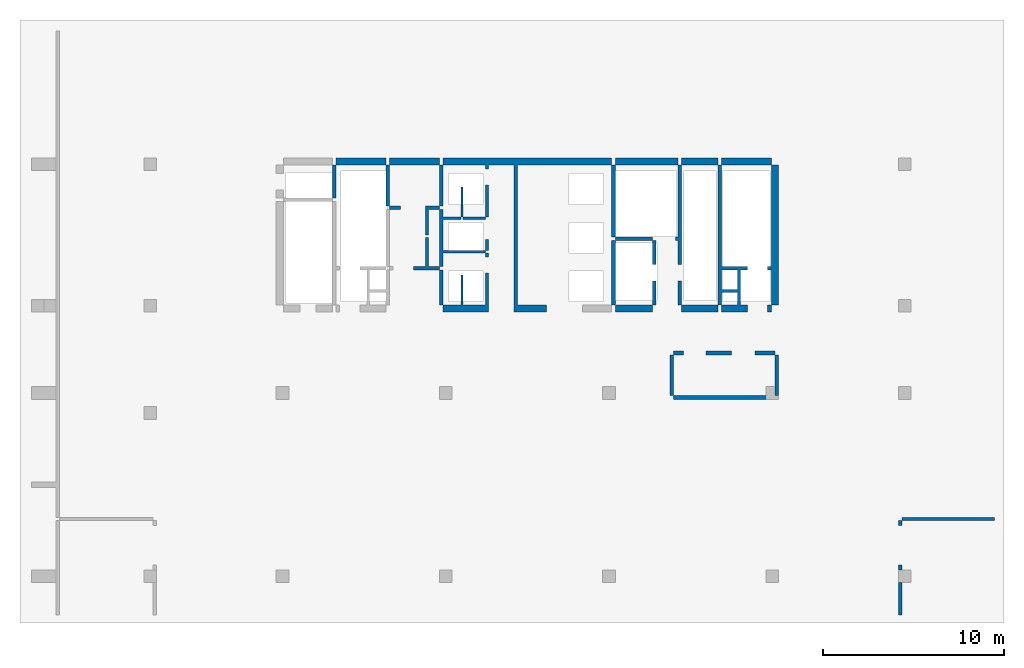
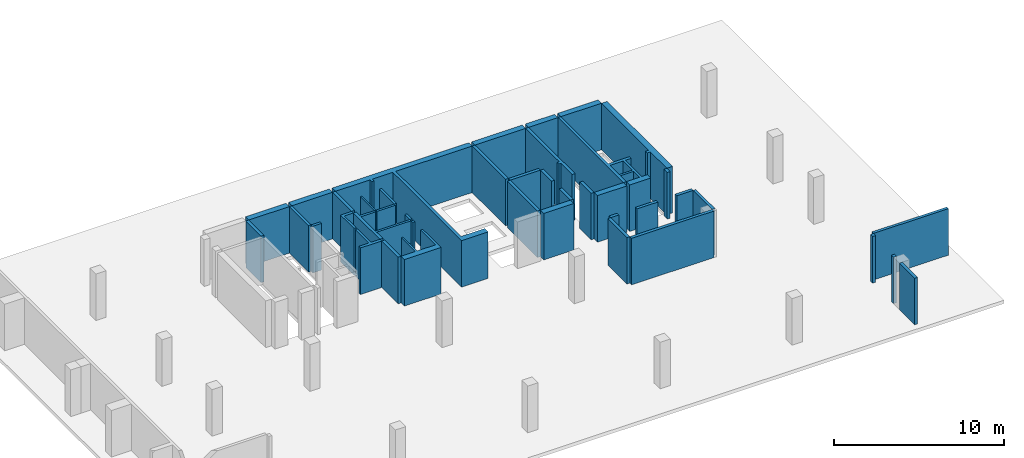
# One storey, part 2 of 2: 42 walls.
"""IFC4 building model written with IfcOpenShell, lengths in millimetres."""

from ifc_helpers import new_model, si_unit, frame, origin, place, context, project, spatial, triangles, element, save


model = new_model("IFC4")

# Units and contexts
model_context = context("Model", 3, precision=0.001, world=origin())
ifc_project = project(units=[si_unit("LENGTHUNIT", "METRE", prefix="MILLI"), si_unit("AREAUNIT", "SQUARE_METRE"), si_unit("VOLUMEUNIT", "CUBIC_METRE")], contexts=[model_context])

# Site, building, storey
site_placement = place(None, origin())
site = spatial("IfcSite", under=ifc_project, at=site_placement, Name="Site", CompositionType="ELEMENT")
building_placement = place(site_placement, origin())
building = spatial("IfcBuilding", under=site, at=building_placement, Name="INNOCEAN", CompositionType="ELEMENT")
storey_placement = place(building_placement, frame((0.0, 0.0, -12600.0)))
storey = spatial("IfcBuildingStorey", under=building, at=storey_placement, Name="B3", CompositionType="ELEMENT", Elevation=-12600.0)

# Walls
wall_1_placement = place(storey_placement, origin())
element("IfcWall", 1, at=wall_1_placement, inside=storey, Name="B3_Walls_B3_015", context=model_context, shape_type="Tessellation", body=[
    triangles([(16429.3, 23222.2, 0.0), (16429.3, 25025.8, 0.0), (16429.3, 25025.8, 3350.0), (16429.3, 23222.2, 3350.0), (16226.2, 23222.2, 0.0), (16226.2, 23222.2, 3350.0), (16226.2, 25025.8, 0.0), (16226.2, 25025.8, 3350.0)], [[1, 2, 3], [1, 3, 4], [5, 1, 4], [5, 4, 6], [7, 5, 6], [7, 6, 8], [2, 7, 8], [2, 8, 3], [7, 2, 1], [7, 1, 5], [3, 8, 4], [4, 8, 6]], closed=True),
])
wall_2_placement = place(storey_placement, origin())
element("IfcWall", 2, at=wall_2_placement, inside=storey, Name="B3_Walls_B3_018", context=model_context, shape_type="Tessellation", body=[
    triangles([(19183.7, 25419.5, 0.0), (16429.3, 25419.5, 0.0), (16429.3, 25419.5, 3350.0), (19183.7, 25419.5, 3350.0), (19183.7, 25025.8, 0.0), (19183.7, 25025.8, 3350.0), (16429.3, 25025.8, 0.0), (16429.3, 25025.8, 3350.0)], [[1, 2, 3], [1, 3, 4], [5, 1, 4], [5, 4, 6], [7, 5, 6], [7, 6, 8], [2, 7, 8], [2, 8, 3], [2, 1, 5], [2, 5, 7], [4, 3, 6], [6, 3, 8]], closed=True),
])
wall_3_placement = place(storey_placement, origin())
element("IfcWall", 3, at=wall_3_placement, inside=storey, Name="B3_Walls_B3_019", context=model_context, shape_type="Tessellation", body=[
    triangles([(23423.2, 18965.0, 0.0), (23423.2, 18967.3, 0.0), (23423.2, 18967.3, 3350.0), (23423.2, 18965.0, 3350.0), (23425.0, 18965.0, 0.0), (23425.0, 18965.0, 3350.0), (23425.0, 17316.1, 3350.0), (23425.0, 17316.1, 0.0), (24679.9, 17316.1, 0.0), (24679.9, 17316.1, 3350.0), (24679.9, 19068.9, 0.0), (24679.9, 19068.9, 3350.0), (24680.0, 19068.9, 3350.0), (24680.0, 19068.9, 0.0), (24680.0, 19070.0, 0.0), (24680.0, 19070.0, 3350.0), (24830.0, 19070.0, 0.0), (24830.0, 19070.0, 3350.0), (24830.0, 19068.9, 0.0), (24830.0, 19068.9, 3350.0), (24832.2, 19068.9, 3350.0), (24832.2, 19068.9, 0.0), (24832.2, 17316.1, 0.0), (24832.2, 17316.1, 3350.0), (24832.2, 16922.4, 0.0), (24832.2, 16922.4, 3350.0), (22331.6, 16922.4, 0.0), (22331.6, 16922.4, 3350.0), (22331.6, 17316.1, 0.0), (22331.6, 17316.1, 3350.0), (23320.0, 17316.1, 0.0), (23320.0, 17316.1, 3350.0), (23320.0, 18965.0, 3350.0), (23320.0, 18965.0, 0.0), (23321.7, 18965.0, 0.0), (23321.7, 18965.0, 3350.0), (23321.7, 18967.3, 0.0), (23321.7, 18967.3, 3350.0)], [[1, 2, 3], [1, 3, 4], [5, 1, 4], [5, 4, 6], [5, 6, 7], [8, 5, 7], [9, 8, 7], [9, 7, 10], [11, 9, 10], [11, 10, 12], [11, 12, 13], [14, 11, 13], [15, 14, 13], [15, 13, 16], [17, 15, 16], [17, 16, 18], [19, 17, 18], [19, 18, 20], [19, 20, 21], [22, 19, 21], [23, 22, 21], [23, 21, 24], [25, 23, 24], [25, 24, 26], [27, 25, 26], [27, 26, 28], [29, 27, 28], [29, 28, 30], [31, 29, 30], [31, 30, 32], [31, 32, 33], [34, 31, 33], [35, 34, 33], [35, 33, 36], [37, 35, 36], [37, 36, 38], [2, 37, 38], [2, 38, 3], [9, 23, 25], [8, 9, 25], [19, 22, 23], [19, 23, 9], [14, 17, 19], [14, 19, 9], [11, 14, 9], [15, 17, 14], [27, 8, 25], [27, 31, 8], [29, 31, 27], [1, 5, 8], [1, 8, 31], [35, 2, 1], [35, 1, 31], [34, 35, 31], [37, 2, 35], [24, 10, 26], [10, 7, 26], [21, 20, 24], [24, 20, 10], [18, 13, 20], [20, 13, 10], [13, 12, 10], [18, 16, 13], [7, 28, 26], [32, 28, 7], [32, 30, 28], [6, 4, 7], [7, 4, 32], [3, 36, 4], [4, 36, 32], [36, 33, 32], [3, 38, 36]], closed=True),
])
wall_4_placement = place(storey_placement, origin())
element("IfcWall", 4, at=wall_4_placement, inside=storey, Name="B3_Walls_B3_020", context=model_context, shape_type="Tessellation", body=[
    triangles([(22331.6, 19246.7, 0.0), (22331.6, 19246.7, 3350.0), (22331.6, 17316.1, 3350.0), (22331.6, 17316.1, 0.0), (22128.5, 17316.1, 0.0), (22128.5, 17316.1, 3350.0), (22128.5, 19246.7, 3350.0), (22128.5, 19246.7, 0.0)], [[1, 2, 3], [4, 1, 3], [5, 4, 3], [5, 3, 6], [5, 6, 7], [8, 5, 7], [1, 8, 7], [1, 7, 2], [8, 1, 4], [8, 4, 5], [2, 7, 3], [3, 7, 6]], closed=True),
])
wall_5_placement = place(storey_placement, origin())
element("IfcWall", 5, at=wall_5_placement, inside=storey, Name="B3_Walls_B3_022", context=model_context, shape_type="Tessellation", body=[
    triangles([(21366.9, 21024.9, 0.0), (21366.9, 19449.9, 0.0), (21366.9, 19449.9, 3350.0), (21366.9, 21024.9, 3350.0), (21519.3, 21024.9, 3350.0), (21519.3, 21024.9, 0.0), (21519.3, 19449.9, 0.0), (21519.3, 19449.9, 3350.0), (22128.5, 19449.9, 0.0), (22128.5, 19449.9, 3350.0), (22128.5, 19246.7, 0.0), (22128.5, 19246.7, 3350.0), (20694.2, 19246.7, 0.0), (20694.2, 19246.7, 3350.0), (20694.2, 19449.9, 0.0), (20694.2, 19449.9, 3350.0)], [[1, 2, 3], [1, 3, 4], [1, 4, 5], [6, 1, 5], [7, 6, 5], [7, 5, 8], [9, 7, 8], [9, 8, 10], [11, 9, 10], [11, 10, 12], [13, 11, 12], [13, 12, 14], [15, 13, 14], [15, 14, 16], [2, 15, 16], [2, 16, 3], [7, 9, 11], [2, 7, 11], [13, 2, 11], [15, 2, 13], [1, 6, 7], [1, 7, 2], [10, 8, 12], [8, 3, 12], [3, 14, 12], [3, 16, 14], [5, 4, 8], [8, 4, 3]], closed=True),
])
wall_6_placement = place(storey_placement, origin())
element("IfcWall", 6, at=wall_6_placement, inside=storey, Name="B3_Walls_B3_023", context=model_context, shape_type="Tessellation", body=[
    triangles([(24679.9, 19970.7, 0.0), (24832.2, 19970.7, 0.0), (24832.2, 19970.7, 3350.0), (24679.9, 19970.7, 3350.0), (24679.9, 20173.9, 0.0), (24679.9, 20173.9, 3350.0), (24832.2, 20173.9, 0.0), (24832.2, 20173.9, 3350.0)], [[1, 2, 3], [1, 3, 4], [5, 1, 4], [5, 4, 6], [7, 5, 6], [7, 6, 8], [2, 7, 8], [2, 8, 3], [5, 2, 1], [5, 7, 2], [3, 6, 4], [8, 6, 3]], closed=True),
])
wall_7_placement = place(storey_placement, origin())
element("IfcWall", 7, at=wall_7_placement, inside=storey, Name="B3_Walls_B3_024", context=model_context, shape_type="Tessellation", body=[
    triangles([(22128.5, 22574.4, 0.0), (22128.5, 19449.9, 0.0), (22128.5, 19449.9, 3350.0), (22128.5, 22574.4, 3350.0), (22331.6, 22574.4, 0.0), (22331.6, 22574.4, 3350.0), (22331.6, 22168.0, 0.0), (22331.6, 22168.0, 3350.0), (23321.7, 22168.0, 3350.0), (23321.7, 22168.0, 0.0), (23321.7, 22015.6, 0.0), (23321.7, 22015.6, 3350.0), (22331.6, 22015.6, 3350.0), (22331.6, 22015.6, 0.0), (22331.6, 20326.3, 0.0), (22331.6, 20326.3, 3350.0), (24679.9, 20326.3, 0.0), (24679.9, 20326.3, 3350.0), (24679.9, 20173.9, 3350.0), (24679.9, 20173.9, 0.0), (22331.6, 20173.9, 0.0), (22331.6, 20173.9, 3350.0), (22331.6, 19449.9, 3350.0), (22331.6, 19449.9, 0.0)], [[1, 2, 3], [1, 3, 4], [5, 1, 4], [5, 4, 6], [7, 5, 6], [7, 6, 8], [7, 8, 9], [10, 7, 9], [11, 10, 9], [11, 9, 12], [11, 12, 13], [14, 11, 13], [15, 14, 13], [15, 13, 16], [17, 15, 16], [17, 16, 18], [17, 18, 19], [20, 17, 19], [21, 20, 19], [21, 19, 22], [21, 22, 23], [24, 21, 23], [2, 24, 23], [2, 23, 3], [21, 24, 2], [15, 17, 20], [15, 20, 21], [15, 21, 2], [14, 10, 11], [7, 10, 14], [1, 5, 7], [1, 14, 15], [1, 7, 14], [2, 1, 15], [23, 22, 3], [18, 16, 19], [19, 16, 22], [22, 16, 3], [9, 13, 12], [9, 8, 13], [6, 4, 8], [13, 4, 16], [8, 4, 13], [4, 3, 16]], closed=True),
])
wall_8_placement = place(storey_placement, origin())
element("IfcWall", 8, at=wall_8_placement, inside=storey, Name="B3_Walls_B3_026", context=model_context, shape_type="Tessellation", body=[
    triangles([(22128.5, 22765.0, 0.0), (21366.9, 22765.0, 0.0), (21366.9, 22765.0, 3350.0), (22128.5, 22765.0, 3350.0), (22128.5, 22574.4, 0.0), (22128.5, 22574.4, 3350.0), (21519.3, 22574.4, 0.0), (21519.3, 22574.4, 3350.0), (21519.3, 21177.3, 0.0), (21519.3, 21177.3, 3350.0), (21366.9, 21177.3, 3350.0), (21366.9, 21177.3, 0.0), (21366.9, 22574.4, 0.0), (21366.9, 22574.4, 3350.0)], [[1, 2, 3], [1, 3, 4], [5, 1, 4], [5, 4, 6], [7, 5, 6], [7, 6, 8], [9, 7, 8], [9, 8, 10], [9, 10, 11], [12, 9, 11], [13, 12, 11], [13, 11, 14], [2, 13, 14], [2, 14, 3], [7, 1, 5], [13, 7, 9], [13, 9, 12], [2, 1, 7], [2, 7, 13], [4, 8, 6], [8, 14, 10], [10, 14, 11], [4, 3, 8], [8, 3, 14]], closed=True),
])
wall_9_placement = place(storey_placement, origin())
element("IfcWall", 9, at=wall_9_placement, inside=storey, Name="B3_Walls_B3_027", context=model_context, shape_type="Tessellation", body=[
    triangles([(23423.2, 22168.0, 0.0), (23423.2, 22168.0, 3350.0), (24679.9, 22168.0, 3350.0), (24679.9, 22168.0, 0.0), (24679.9, 22015.6, 0.0), (24679.9, 22015.6, 3350.0), (23423.2, 22015.6, 3350.0), (23423.2, 22015.6, 0.0)], [[1, 2, 3], [4, 1, 3], [5, 4, 3], [5, 3, 6], [5, 6, 7], [8, 5, 7], [1, 8, 7], [1, 7, 2], [1, 4, 5], [1, 5, 8], [3, 2, 6], [6, 2, 7]], closed=True),
])
wall_10_placement = place(storey_placement, origin())
element("IfcWall", 10, at=wall_10_placement, inside=storey, Name="B3_Walls_B3_028", context=model_context, shape_type="Tessellation", body=[
    triangles([(19970.7, 22574.4, 0.0), (19970.7, 22765.0, 0.0), (19970.7, 22765.0, 3350.0), (19970.7, 22574.4, 3350.0), (19374.1, 22574.4, 0.0), (19374.1, 22574.4, 3350.0), (19374.1, 22765.0, 0.0), (19374.1, 22765.0, 3350.0)], [[1, 2, 3], [1, 3, 4], [5, 1, 4], [5, 4, 6], [7, 5, 6], [7, 6, 8], [2, 7, 8], [2, 8, 3], [7, 2, 1], [7, 1, 5], [3, 8, 4], [4, 8, 6]], closed=True),
])
wall_11_placement = place(storey_placement, origin())
element("IfcWall", 11, at=wall_11_placement, inside=storey, Name="B3_Walls_B3_029", context=model_context, shape_type="Tessellation", body=[
    triangles([(23423.2, 23819.2, 0.0), (23423.2, 23819.2, 3350.0), (23423.2, 22168.0, 3350.0), (23423.2, 22168.0, 0.0), (23321.7, 22168.0, 0.0), (23321.7, 22168.0, 3350.0), (23321.7, 23819.2, 3350.0), (23321.7, 23819.2, 0.0)], [[1, 2, 3], [4, 1, 3], [5, 4, 3], [5, 3, 6], [5, 6, 7], [8, 5, 7], [1, 8, 7], [1, 7, 2], [8, 1, 4], [8, 4, 5], [2, 7, 3], [3, 7, 6]], closed=True),
])
wall_12_placement = place(storey_placement, origin())
element("IfcWall", 12, at=wall_12_placement, inside=storey, Name="B3_Walls_B3_030", context=model_context, shape_type="Tessellation", body=[
    triangles([(19374.1, 22765.0, 0.0), (19374.1, 25025.8, 0.0), (19374.1, 25025.8, 3350.0), (19374.1, 22765.0, 3350.0), (19183.7, 22765.0, 0.0), (19183.7, 22765.0, 3350.0), (19183.7, 25025.8, 0.0), (19183.7, 25025.8, 3350.0)], [[1, 2, 3], [1, 3, 4], [5, 1, 4], [5, 4, 6], [7, 5, 6], [7, 6, 8], [2, 7, 8], [2, 8, 3], [7, 2, 1], [7, 1, 5], [3, 8, 4], [4, 8, 6]], closed=True),
])
wall_13_placement = place(storey_placement, origin())
element("IfcWall", 13, at=wall_13_placement, inside=storey, Name="B3_Walls_B3_031", context=model_context, shape_type="Tessellation", body=[
    triangles([(22331.6, 22765.0, 0.0), (22331.6, 25025.8, 0.0), (22331.6, 25025.8, 3350.0), (22331.6, 22765.0, 3350.0), (22128.5, 22765.0, 0.0), (22128.5, 22765.0, 3350.0), (22128.5, 25025.8, 0.0), (22128.5, 25025.8, 3350.0)], [[1, 2, 3], [1, 3, 4], [5, 1, 4], [5, 4, 6], [7, 5, 6], [7, 6, 8], [2, 7, 8], [2, 8, 3], [7, 2, 1], [7, 1, 5], [3, 8, 4], [4, 8, 6]], closed=True),
])
wall_14_placement = place(storey_placement, origin())
element("IfcWall", 14, at=wall_14_placement, inside=storey, Name="B3_Walls_B3_032", context=model_context, shape_type="Tessellation", body=[
    triangles([(22128.5, 25419.5, 0.0), (19374.1, 25419.5, 0.0), (19374.1, 25419.5, 3350.0), (22128.5, 25419.5, 3350.0), (22128.5, 25025.8, 0.0), (22128.5, 25025.8, 3350.0), (19374.1, 25025.8, 0.0), (19374.1, 25025.8, 3350.0)], [[1, 2, 3], [1, 3, 4], [5, 1, 4], [5, 4, 6], [7, 5, 6], [7, 6, 8], [2, 7, 8], [2, 8, 3], [2, 1, 5], [2, 5, 7], [4, 3, 6], [6, 3, 8]], closed=True),
])
wall_15_placement = place(storey_placement, origin())
element("IfcWall", 15, at=wall_15_placement, inside=storey, Name="B3_Walls_B3_033", context=model_context, shape_type="Tessellation", body=[
    triangles([(35024.8, 14572.6, 0.0), (34821.8, 14572.6, 0.0), (34821.8, 14572.6, 3350.0), (35024.8, 14572.6, 3350.0), (35024.8, 12324.5, 0.0), (35024.8, 12324.5, 3350.0), (34821.8, 12324.5, 0.0), (34821.8, 12324.5, 3350.0)], [[1, 2, 3], [1, 3, 4], [5, 1, 4], [5, 4, 6], [7, 5, 6], [7, 6, 8], [2, 7, 8], [2, 8, 3], [2, 1, 5], [2, 5, 7], [4, 3, 6], [6, 3, 8]], closed=True),
])
wall_16_placement = place(storey_placement, origin())
element("IfcWall", 16, at=wall_16_placement, inside=storey, Name="B3_Walls_B3_034", context=model_context, shape_type="Tessellation", body=[
    triangles([(35024.8, 14572.6, 0.0), (35024.8, 14572.6, 3350.0), (35024.8, 14775.8, 3350.0), (35024.8, 14775.8, 0.0), (35570.7, 14775.8, 0.0), (35570.7, 14775.8, 3350.0), (35570.7, 14572.6, 3350.0), (35570.7, 14572.6, 0.0)], [[1, 2, 3], [4, 1, 3], [5, 4, 3], [5, 3, 6], [5, 6, 7], [8, 5, 7], [1, 8, 7], [1, 7, 2], [4, 5, 8], [4, 8, 1], [6, 3, 7], [7, 3, 2]], closed=True),
])
wall_17_placement = place(storey_placement, origin())
element("IfcWall", 17, at=wall_17_placement, inside=storey, Name="B3_Walls_B3_035", context=model_context, shape_type="Tessellation", body=[
    triangles([(38223.5, 14775.0, 0.0), (38223.5, 14775.8, 0.0), (38223.5, 14775.8, 3350.0), (38223.5, 14775.0, 3350.0), (38225.0, 14775.0, 0.0), (38225.0, 14775.0, 3350.0), (38225.0, 14575.0, 0.0), (38225.0, 14575.0, 3350.0), (38223.5, 14575.0, 0.0), (38223.5, 14575.0, 3350.0), (38223.5, 14572.6, 0.0), (38223.5, 14572.6, 3350.0), (36814.6, 14572.6, 0.0), (36814.6, 14572.6, 3350.0), (36814.6, 14775.8, 3350.0), (36814.6, 14775.8, 0.0)], [[1, 2, 3], [1, 3, 4], [5, 1, 4], [5, 4, 6], [7, 5, 6], [7, 6, 8], [9, 7, 8], [9, 8, 10], [11, 9, 10], [11, 10, 12], [13, 11, 12], [13, 12, 14], [13, 14, 15], [16, 13, 15], [2, 16, 15], [2, 15, 3], [1, 5, 7], [1, 7, 9], [13, 9, 11], [16, 2, 1], [16, 9, 13], [16, 1, 9], [6, 4, 8], [8, 4, 10], [10, 14, 12], [3, 15, 4], [10, 15, 14], [4, 15, 10]], closed=True),
])
wall_18_placement = place(storey_placement, origin())
element("IfcWall", 18, at=wall_18_placement, inside=storey, Name="B3_Walls_B3_036", context=model_context, shape_type="Tessellation", body=[
    triangles([(24832.2, 24822.6, 0.0), (24832.2, 25025.8, 0.0), (24832.2, 25025.8, 3350.0), (24832.2, 24822.6, 3350.0), (24679.9, 24822.6, 0.0), (24679.9, 24822.6, 3350.0), (24679.9, 25025.8, 0.0), (24679.9, 25025.8, 3350.0), (22331.6, 25025.8, 0.0), (22331.6, 25025.8, 3350.0), (22331.6, 25419.5, 0.0), (22331.6, 25419.5, 3350.0), (31623.1, 25419.5, 0.0), (31623.1, 25419.5, 3350.0), (31623.1, 25025.8, 0.0), (31623.1, 25025.8, 3350.0), (26431.5, 25025.8, 3350.0), (26431.5, 25025.8, 0.0), (26431.5, 17316.1, 0.0), (26431.5, 17316.1, 3350.0), (28030.9, 17316.1, 0.0), (28030.9, 17316.1, 3350.0), (28030.9, 16922.4, 0.0), (28030.9, 16922.4, 3350.0), (28030.0, 16922.4, 0.0), (28030.0, 16922.4, 3350.0), (28030.0, 16920.0, 0.0), (28030.0, 16920.0, 3350.0), (26230.0, 16920.0, 0.0), (26230.0, 16920.0, 3350.0), (26230.0, 16922.4, 0.0), (26230.0, 16922.4, 3350.0), (26228.4, 16922.4, 3350.0), (26228.4, 16922.4, 0.0), (26228.4, 17316.1, 0.0), (26228.4, 17316.1, 3350.0), (26228.4, 25025.8, 0.0), (26228.4, 25025.8, 3350.0)], [[1, 2, 3], [1, 3, 4], [5, 1, 4], [5, 4, 6], [7, 5, 6], [7, 6, 8], [9, 7, 8], [9, 8, 10], [11, 9, 10], [11, 10, 12], [13, 11, 12], [13, 12, 14], [15, 13, 14], [15, 14, 16], [17, 15, 16], [18, 15, 17], [19, 18, 17], [19, 17, 20], [21, 19, 20], [21, 20, 22], [23, 21, 22], [23, 22, 24], [25, 23, 24], [25, 24, 26], [27, 25, 26], [27, 26, 28], [29, 27, 28], [29, 28, 30], [31, 29, 30], [31, 30, 32], [31, 32, 33], [34, 31, 33], [35, 34, 33], [35, 33, 36], [37, 35, 36], [37, 36, 38], [2, 37, 38], [2, 38, 3], [21, 23, 25], [19, 25, 27], [19, 27, 29], [19, 29, 31], [19, 21, 25], [35, 31, 34], [35, 19, 31], [18, 13, 15], [37, 18, 19], [37, 19, 35], [2, 1, 5], [7, 2, 5], [11, 7, 9], [11, 13, 18], [11, 18, 37], [11, 37, 2], [11, 2, 7], [24, 22, 26], [26, 20, 28], [28, 20, 30], [30, 20, 32], [22, 20, 26], [32, 36, 33], [20, 36, 32], [14, 17, 16], [17, 38, 20], [20, 38, 36], [4, 3, 6], [3, 8, 6], [8, 12, 10], [14, 12, 17], [17, 12, 38], [38, 12, 3], [3, 12, 8]], closed=True),
])
wall_19_placement = place(storey_placement, origin())
element("IfcWall", 19, at=wall_19_placement, inside=storey, Name="B3_Walls_B3_038", context=model_context, shape_type="Tessellation", body=[
    triangles([(33869.8, 16922.4, 0.0), (33869.8, 17316.1, 0.0), (33869.8, 17316.1, 3350.0), (33869.8, 16922.4, 3350.0), (31826.2, 16922.4, 0.0), (31826.2, 16922.4, 3350.0), (31826.2, 17316.1, 0.0), (31826.2, 17316.1, 3350.0)], [[1, 2, 3], [1, 3, 4], [5, 1, 4], [5, 4, 6], [7, 5, 6], [7, 6, 8], [2, 7, 8], [2, 8, 3], [7, 2, 1], [7, 1, 5], [3, 8, 4], [4, 8, 6]], closed=True),
])
wall_20_placement = place(storey_placement, origin())
element("IfcWall", 20, at=wall_20_placement, inside=storey, Name="B3_Walls_B3_039", context=model_context, shape_type="Tessellation", body=[
    triangles([(37474.6, 16922.4, 0.0), (37474.6, 17316.1, 0.0), (37474.6, 17316.1, 3350.0), (37474.6, 16922.4, 3350.0), (35469.1, 16922.4, 0.0), (35469.1, 16922.4, 3350.0), (35469.1, 17316.1, 0.0), (35469.1, 17316.1, 3350.0)], [[1, 2, 3], [1, 3, 4], [5, 1, 4], [5, 4, 6], [7, 5, 6], [7, 6, 8], [2, 7, 8], [2, 8, 3], [7, 2, 1], [7, 1, 5], [3, 8, 4], [4, 8, 6]], closed=True),
])
wall_21_placement = place(storey_placement, origin())
element("IfcWall", 21, at=wall_21_placement, inside=storey, Name="B3_Walls_B3_040", context=model_context, shape_type="Tessellation", body=[
    triangles([(34072.9, 17316.1, 0.0), (34072.9, 18649.7, 0.0), (34072.9, 18649.7, 3350.0), (34072.9, 17316.1, 3350.0), (33869.8, 17316.1, 0.0), (33869.8, 17316.1, 3350.0), (33869.8, 18649.7, 0.0), (33869.8, 18649.7, 3350.0)], [[1, 2, 3], [1, 3, 4], [5, 1, 4], [5, 4, 6], [7, 5, 6], [7, 6, 8], [2, 7, 8], [2, 8, 3], [7, 2, 1], [7, 1, 5], [3, 8, 4], [4, 8, 6]], closed=True),
])
wall_22_placement = place(storey_placement, origin())
element("IfcWall", 22, at=wall_22_placement, inside=storey, Name="B3_Walls_B3_041", context=model_context, shape_type="Tessellation", body=[
    triangles([(35469.1, 17316.1, 0.0), (35469.1, 18649.7, 0.0), (35469.1, 18649.7, 3350.0), (35469.1, 17316.1, 3350.0), (35266.0, 17316.1, 0.0), (35266.0, 17316.1, 3350.0), (35266.0, 18649.7, 0.0), (35266.0, 18649.7, 3350.0)], [[1, 2, 3], [1, 3, 4], [5, 1, 4], [5, 4, 6], [7, 5, 6], [7, 6, 8], [2, 7, 8], [2, 8, 3], [7, 2, 1], [7, 1, 5], [3, 8, 4], [4, 8, 6]], closed=True),
])
wall_23_placement = place(storey_placement, origin())
element("IfcWall", 23, at=wall_23_placement, inside=storey, Name="B3_Walls_B3_042", context=model_context, shape_type="Tessellation", body=[
    triangles([(31826.2, 17316.1, 3350.0), (31826.2, 20872.5, 0.0), (31826.2, 20872.5, 3350.0), (31826.2, 17316.1, 0.0), (31623.1, 17316.1, 0.0), (31623.1, 17316.1, 3350.0), (31623.1, 20872.5, 3350.0), (31623.1, 20872.5, 0.0)], [[1, 2, 3], [4, 2, 1], [5, 4, 1], [5, 1, 6], [7, 5, 6], [8, 5, 7], [2, 8, 7], [2, 7, 3], [8, 2, 4], [8, 4, 5], [3, 7, 1], [1, 7, 6]], closed=True),
])
wall_24_placement = place(storey_placement, origin())
element("IfcWall", 24, at=wall_24_placement, inside=storey, Name="B3_Walls_B3_043", context=model_context, shape_type="Tessellation", body=[
    triangles([(34072.9, 19551.5, 0.0), (34072.9, 20872.5, 0.0), (34072.9, 20872.5, 3350.0), (34072.9, 19551.5, 3350.0), (33869.8, 19551.5, 0.0), (33869.8, 19551.5, 3350.0), (33869.8, 20872.5, 0.0), (33869.8, 20872.5, 3350.0)], [[1, 2, 3], [1, 3, 4], [5, 1, 4], [5, 4, 6], [7, 5, 6], [7, 6, 8], [2, 7, 8], [2, 8, 3], [7, 2, 1], [7, 1, 5], [3, 8, 4], [4, 8, 6]], closed=True),
])
wall_25_placement = place(storey_placement, origin())
element("IfcWall", 25, at=wall_25_placement, inside=storey, Name="B3_Walls_B3_044", context=model_context, shape_type="Tessellation", body=[
    triangles([(35469.1, 21075.7, 3350.0), (35469.1, 25025.8, 0.0), (35469.1, 25025.8, 3350.0), (35469.1, 21075.7, 0.0), (35469.1, 20872.5, 0.0), (35469.1, 20872.5, 3350.0), (35469.1, 19551.5, 0.0), (35469.1, 19551.5, 3350.0), (35266.0, 19551.5, 0.0), (35266.0, 19551.5, 3350.0), (35266.0, 20872.5, 0.0), (35266.0, 20872.5, 3350.0), (35126.4, 20872.5, 0.0), (35126.4, 20872.5, 3350.0), (35126.4, 21075.7, 0.0), (35126.4, 21075.7, 3350.0), (35266.0, 21075.7, 0.0), (35266.0, 21075.7, 3350.0), (35266.0, 25025.8, 3350.0), (35266.0, 25025.8, 0.0)], [[1, 2, 3], [4, 2, 1], [5, 4, 1], [5, 1, 6], [7, 5, 6], [7, 6, 8], [9, 7, 8], [9, 8, 10], [11, 9, 10], [11, 10, 12], [13, 11, 12], [13, 12, 14], [15, 13, 14], [15, 14, 16], [17, 15, 16], [17, 16, 18], [19, 17, 18], [20, 17, 19], [2, 20, 19], [2, 19, 3], [11, 5, 7], [11, 7, 9], [4, 5, 11], [17, 4, 11], [15, 11, 13], [15, 17, 11], [20, 2, 4], [20, 4, 17], [6, 12, 8], [8, 12, 10], [6, 1, 12], [1, 18, 12], [12, 16, 14], [18, 16, 12], [3, 19, 1], [1, 19, 18]], closed=True),
])
wall_26_placement = place(storey_placement, origin())
element("IfcWall", 26, at=wall_26_placement, inside=storey, Name="B3_Walls_B3_045", context=model_context, shape_type="Tessellation", body=[
    triangles([(24832.2, 20326.3, 0.0), (24832.2, 20923.3, 0.0), (24832.2, 20923.3, 3350.0), (24832.2, 20326.3, 3350.0), (24679.9, 20326.3, 0.0), (24679.9, 20326.3, 3350.0), (24679.9, 20923.3, 0.0), (24679.9, 20923.3, 3350.0)], [[1, 2, 3], [1, 3, 4], [5, 1, 4], [5, 4, 6], [7, 5, 6], [7, 6, 8], [2, 7, 8], [2, 8, 3], [7, 2, 1], [7, 1, 5], [3, 8, 4], [4, 8, 6]], closed=True),
])
wall_27_placement = place(storey_placement, origin())
element("IfcWall", 27, at=wall_27_placement, inside=storey, Name="B3_Walls_B3_046", context=model_context, shape_type="Tessellation", body=[
    triangles([(33869.8, 20872.5, 0.0), (33869.8, 21075.7, 0.0), (33869.8, 21075.7, 3350.0), (33869.8, 20872.5, 3350.0), (31826.2, 20872.5, 0.0), (31826.2, 20872.5, 3350.0), (31826.2, 21075.7, 0.0), (31826.2, 21075.7, 3350.0)], [[1, 2, 3], [1, 3, 4], [5, 1, 4], [5, 4, 6], [7, 5, 6], [7, 6, 8], [2, 7, 8], [2, 8, 3], [7, 2, 1], [7, 1, 5], [3, 8, 4], [4, 8, 6]], closed=True),
])
wall_28_placement = place(storey_placement, origin())
element("IfcWall", 28, at=wall_28_placement, inside=storey, Name="B3_Walls_B3_047", context=model_context, shape_type="Tessellation", body=[
    triangles([(24832.2, 22168.0, 0.0), (24832.2, 23920.8, 0.0), (24832.2, 23920.8, 3350.0), (24832.2, 22168.0, 3350.0), (24679.9, 22168.0, 0.0), (24679.9, 22168.0, 3350.0), (24679.9, 23920.8, 0.0), (24679.9, 23920.8, 3350.0)], [[1, 2, 3], [1, 3, 4], [5, 1, 4], [5, 4, 6], [7, 5, 6], [7, 6, 8], [2, 7, 8], [2, 8, 3], [2, 1, 5], [7, 2, 5], [4, 3, 6], [3, 8, 6]], closed=True),
])
wall_29_placement = place(storey_placement, origin())
element("IfcWall", 29, at=wall_29_placement, inside=storey, Name="B3_Walls_B3_048", context=model_context, shape_type="Tessellation", body=[
    triangles([(31826.2, 21075.7, 3350.0), (31826.2, 25025.8, 0.0), (31826.2, 25025.8, 3350.0), (31826.2, 21075.7, 0.0), (31623.1, 21075.7, 0.0), (31623.1, 21075.7, 3350.0), (31623.1, 25025.8, 3350.0), (31623.1, 25025.8, 0.0)], [[1, 2, 3], [4, 2, 1], [5, 4, 1], [5, 1, 6], [7, 5, 6], [8, 5, 7], [2, 8, 7], [2, 7, 3], [2, 4, 5], [8, 2, 5], [1, 3, 6], [3, 7, 6]], closed=True),
])
wall_30_placement = place(storey_placement, origin())
element("IfcWall", 30, at=wall_30_placement, inside=storey, Name="B3_Walls_B3_049", context=model_context, shape_type="Tessellation", body=[
    triangles([(35266.0, 25419.5, 3350.0), (31826.2, 25419.5, 0.0), (31826.2, 25419.5, 3350.0), (35266.0, 25419.5, 0.0), (35266.0, 25025.8, 0.0), (35266.0, 25025.8, 3350.0), (31826.2, 25025.8, 3350.0), (31826.2, 25025.8, 0.0)], [[1, 2, 3], [4, 2, 1], [5, 4, 1], [5, 1, 6], [7, 5, 6], [8, 5, 7], [2, 8, 7], [2, 7, 3], [2, 4, 5], [2, 5, 8], [1, 3, 6], [6, 3, 7]], closed=True),
])
wall_31_placement = place(storey_placement, origin())
element("IfcWall", 31, at=wall_31_placement, inside=storey, Name="B3_Walls_B3_050", context=model_context, shape_type="Tessellation", body=[
    triangles([(37474.6, 25025.8, 0.0), (37474.6, 25419.5, 0.0), (37474.6, 25419.5, 3350.0), (37474.6, 25025.8, 3350.0), (35469.1, 25025.8, 0.0), (35469.1, 25025.8, 3350.0), (35469.1, 25419.5, 0.0), (35469.1, 25419.5, 3350.0)], [[1, 2, 3], [1, 3, 4], [5, 1, 4], [5, 4, 6], [7, 5, 6], [7, 6, 8], [2, 7, 8], [2, 8, 3], [7, 2, 1], [7, 1, 5], [3, 8, 4], [4, 8, 6]], closed=True),
])
wall_32_placement = place(storey_placement, origin())
element("IfcWall", 32, at=wall_32_placement, inside=storey, Name="B3_Walls_B3_051", context=model_context, shape_type="Tessellation", body=[
    triangles([(47616.5, 220.2, 0.0), (47616.5, 2023.7, 0.0), (47616.5, 2023.7, 3350.0), (47616.5, 220.2, 3350.0), (47413.4, 220.2, 0.0), (47413.4, 220.2, 3350.0), (47413.4, 2023.7, 0.0), (47413.4, 2023.7, 3350.0)], [[1, 2, 3], [1, 3, 4], [5, 1, 4], [5, 4, 6], [7, 5, 6], [7, 6, 8], [2, 7, 8], [2, 8, 3], [7, 2, 1], [7, 1, 5], [3, 8, 4], [4, 8, 6]], closed=True),
])
wall_33_placement = place(storey_placement, origin())
element("IfcWall", 33, at=wall_33_placement, inside=storey, Name="B3_Walls_B3_052", context=model_context, shape_type="Tessellation", body=[
    triangles([(47616.5, 2722.3, 0.0), (47616.5, 2976.3, 0.0), (47616.5, 2976.3, 3350.0), (47616.5, 2722.3, 3350.0), (47413.4, 2722.3, 0.0), (47413.4, 2722.3, 3350.0), (47413.4, 2976.3, 0.0), (47413.4, 2976.3, 3350.0)], [[1, 2, 3], [1, 3, 4], [5, 1, 4], [5, 4, 6], [7, 5, 6], [7, 6, 8], [2, 7, 8], [2, 8, 3], [2, 1, 5], [7, 2, 5], [4, 3, 6], [3, 8, 6]], closed=True),
])
wall_34_placement = place(storey_placement, origin())
element("IfcWall", 34, at=wall_34_placement, inside=storey, Name="B3_Walls_B3_053", context=model_context, shape_type="Tessellation", body=[
    triangles([(47616.5, 5173.7, 0.0), (47616.5, 5427.7, 0.0), (47616.5, 5427.7, 3350.0), (47616.5, 5173.7, 3350.0), (47413.4, 5173.7, 0.0), (47413.4, 5173.7, 3350.0), (47413.4, 5427.7, 0.0), (47413.4, 5427.7, 3350.0)], [[1, 2, 3], [1, 3, 4], [5, 1, 4], [5, 4, 6], [7, 5, 6], [7, 6, 8], [2, 7, 8], [2, 8, 3], [2, 1, 5], [7, 2, 5], [4, 3, 6], [3, 8, 6]], closed=True),
])
wall_35_placement = place(storey_placement, origin())
element("IfcWall", 35, at=wall_35_placement, inside=storey, Name="B3_Walls_B3_054", context=model_context, shape_type="Tessellation", body=[
    triangles([(52706.5, 5427.7, 0.0), (52706.5, 5618.2, 0.0), (52706.5, 5618.2, 3350.0), (52706.5, 5427.7, 3350.0), (47616.5, 5427.7, 0.0), (47616.5, 5427.7, 3350.0), (47616.5, 5618.2, 0.0), (47616.5, 5618.2, 3350.0)], [[1, 2, 3], [1, 3, 4], [5, 1, 4], [5, 4, 6], [7, 5, 6], [7, 6, 8], [2, 7, 8], [2, 8, 3], [7, 2, 1], [7, 1, 5], [3, 8, 4], [4, 8, 6]], closed=True),
])
wall_36_placement = place(storey_placement, origin())
element("IfcWall", 36, at=wall_36_placement, inside=storey, Name="B3_Walls_B3_055", context=model_context, shape_type="Tessellation", body=[
    triangles([(40622.6, 12121.3, 0.0), (40622.6, 12324.5, 0.0), (40622.6, 12324.5, 3350.0), (40622.6, 12121.3, 3350.0), (35024.8, 12121.3, 0.0), (35024.8, 12121.3, 3350.0), (35024.8, 12324.5, 0.0), (35024.8, 12324.5, 3350.0)], [[1, 2, 3], [1, 3, 4], [5, 1, 4], [5, 4, 6], [7, 5, 6], [7, 6, 8], [2, 7, 8], [2, 8, 3], [7, 2, 1], [7, 1, 5], [3, 8, 4], [4, 8, 6]], closed=True),
])
wall_37_placement = place(storey_placement, origin())
element("IfcWall", 37, at=wall_37_placement, inside=storey, Name="B3_Walls_B3_056", context=model_context, shape_type="Tessellation", body=[
    triangles([(40622.6, 12324.5, 0.0), (40813.0, 12324.5, 0.0), (40813.0, 12324.5, 3350.0), (40622.6, 12324.5, 3350.0), (40622.6, 14572.6, 0.0), (40622.6, 14572.6, 3350.0), (40813.0, 14572.6, 0.0), (40813.0, 14572.6, 3350.0)], [[1, 2, 3], [1, 3, 4], [5, 1, 4], [5, 4, 6], [7, 5, 6], [7, 6, 8], [2, 7, 8], [2, 8, 3], [7, 2, 1], [5, 7, 1], [3, 8, 4], [8, 6, 4]], closed=True),
])
wall_38_placement = place(storey_placement, origin())
element("IfcWall", 38, at=wall_38_placement, inside=storey, Name="B3_Walls_B3_057", context=model_context, shape_type="Tessellation", body=[
    triangles([(40622.6, 14775.8, 0.0), (40622.6, 14775.8, 3350.0), (40622.6, 14572.6, 3350.0), (40622.6, 14572.6, 0.0), (39518.2, 14572.6, 3350.0), (39518.2, 14572.6, 0.0), (39518.2, 14775.8, 3350.0), (39518.2, 14775.8, 0.0)], [[1, 2, 3], [4, 1, 3], [4, 3, 5], [6, 4, 5], [6, 5, 7], [8, 6, 7], [8, 7, 2], [1, 8, 2], [8, 1, 4], [8, 4, 6], [2, 7, 3], [3, 7, 5]], closed=True),
])
wall_39_placement = place(storey_placement, origin())
element("IfcWall", 39, at=wall_39_placement, inside=storey, Name="B3_Walls_B3_058", context=model_context, shape_type="Tessellation", body=[
    triangles([(37665.0, 17316.1, 0.0), (37665.0, 16922.4, 0.0), (37665.0, 16922.4, 3350.0), (37665.0, 17316.1, 3350.0), (39099.4, 16922.4, 0.0), (39099.4, 16922.4, 3350.0), (39099.4, 17316.1, 0.0), (39099.4, 17316.1, 3350.0), (38720.0, 17316.1, 0.0), (38720.0, 17316.1, 3350.0), (38720.0, 19245.0, 0.0), (38720.0, 19245.0, 3350.0), (39100.0, 19245.0, 0.0), (39100.0, 19245.0, 3350.0), (39100.0, 19450.0, 0.0), (39100.0, 19450.0, 3350.0), (37665.0, 19450.0, 0.0), (37665.0, 19450.0, 3350.0), (37665.0, 25025.8, 0.0), (37665.0, 25025.8, 3350.0), (37474.6, 25025.8, 0.0), (37474.6, 25025.8, 3350.0), (37474.6, 19449.9, 0.0), (37474.6, 19449.9, 3350.0), (37474.6, 17316.1, 0.0), (37474.6, 17316.1, 3350.0), (37665.0, 18014.7, 0.0), (37665.0, 18014.7, 3350.0), (38565.0, 18014.7, 0.0), (38565.0, 18014.7, 3350.0), (38565.0, 17316.1, 0.0), (38565.0, 17316.1, 3350.0), (38565.0, 19245.0, 0.0), (38565.0, 19245.0, 3350.0), (37665.0, 19245.0, 3350.0), (37665.0, 19245.0, 0.0), (38565.0, 18167.1, 0.0), (38565.0, 18167.1, 3350.0), (37665.0, 18167.1, 0.0), (37665.0, 18167.1, 3350.0)], [[1, 2, 3], [1, 3, 4], [2, 5, 6], [2, 6, 3], [5, 7, 8], [5, 8, 6], [7, 9, 10], [7, 10, 8], [9, 11, 12], [9, 12, 10], [11, 13, 14], [11, 14, 12], [15, 16, 14], [13, 15, 14], [15, 17, 18], [15, 18, 16], [17, 19, 20], [17, 20, 18], [19, 21, 22], [19, 22, 20], [21, 23, 24], [21, 24, 22], [23, 25, 26], [23, 26, 24], [25, 1, 4], [25, 4, 26], [1, 27, 28], [1, 28, 4], [29, 30, 28], [27, 29, 28], [29, 31, 32], [29, 32, 30], [1, 4, 32], [31, 1, 32], [33, 34, 35], [36, 33, 35], [33, 37, 38], [33, 38, 34], [39, 40, 38], [37, 39, 38], [39, 36, 35], [39, 35, 40], [9, 7, 5], [31, 9, 5], [2, 31, 5], [29, 9, 31], [1, 31, 2], [27, 1, 25], [39, 29, 27], [39, 37, 29], [39, 27, 25], [11, 15, 13], [33, 11, 37], [33, 15, 11], [17, 33, 36], [17, 15, 33], [23, 36, 39], [23, 17, 36], [23, 39, 25], [21, 19, 17], [21, 17, 23], [11, 9, 29], [11, 29, 37], [8, 10, 6], [10, 32, 6], [32, 3, 6], [10, 30, 32], [32, 4, 3], [4, 28, 26], [30, 40, 28], [38, 40, 30], [28, 40, 26], [16, 12, 14], [12, 34, 38], [16, 34, 12], [34, 18, 35], [16, 18, 34], [35, 24, 40], [18, 24, 35], [40, 24, 26], [20, 22, 18], [18, 22, 24], [10, 12, 30], [30, 12, 38]], closed=True),
])
wall_40_placement = place(storey_placement, origin())
element("IfcWall", 40, at=wall_40_placement, inside=storey, Name="B3_Walls_B3_059", context=model_context, shape_type="Tessellation", body=[
    triangles([(40419.5, 16922.4, 0.0), (40419.5, 17316.1, 0.0), (40419.5, 17316.1, 3350.0), (40419.5, 16922.4, 3350.0), (40216.4, 16922.4, 0.0), (40216.4, 16922.4, 3350.0), (40216.4, 17316.1, 0.0), (40216.4, 17316.1, 3350.0)], [[1, 2, 3], [1, 3, 4], [5, 1, 4], [5, 4, 6], [7, 5, 6], [7, 6, 8], [2, 7, 8], [2, 8, 3], [7, 2, 1], [7, 1, 5], [3, 8, 4], [4, 8, 6]], closed=True),
])
wall_41_placement = place(storey_placement, origin())
element("IfcWall", 41, at=wall_41_placement, inside=storey, Name="B3_Walls_B3_060", context=model_context, shape_type="Tessellation", body=[
    triangles([(40813.0, 19449.9, 0.0), (40813.0, 25025.8, 0.0), (40813.0, 25025.8, 3350.0), (40813.0, 19449.9, 3350.0), (40813.0, 17316.1, 0.0), (40813.0, 17316.1, 3350.0), (40419.5, 17316.1, 0.0), (40419.5, 17316.1, 3350.0), (40419.5, 19245.0, 0.0), (40419.5, 19245.0, 3350.0), (40215.0, 19245.0, 0.0), (40215.0, 19245.0, 3350.0), (40215.0, 19450.0, 3350.0), (40215.0, 19450.0, 0.0), (40419.5, 19450.0, 0.0), (40419.5, 19450.0, 3350.0), (40419.5, 25025.8, 0.0), (40419.5, 25025.8, 3350.0)], [[1, 2, 3], [1, 3, 4], [5, 1, 4], [5, 4, 6], [7, 5, 6], [7, 6, 8], [9, 7, 8], [9, 8, 10], [11, 9, 10], [11, 10, 12], [11, 12, 13], [14, 11, 13], [15, 14, 13], [15, 13, 16], [17, 15, 16], [17, 16, 18], [2, 17, 18], [2, 18, 3], [9, 1, 5], [9, 5, 7], [15, 1, 9], [14, 9, 11], [14, 15, 9], [2, 1, 15], [17, 2, 15], [4, 10, 6], [6, 10, 8], [4, 16, 10], [10, 13, 12], [16, 13, 10], [4, 3, 16], [3, 18, 16]], closed=True),
])
wall_42_placement = place(storey_placement, origin())
element("IfcWall", 42, at=wall_42_placement, inside=storey, Name="B3_Walls_B3_061", context=model_context, shape_type="Tessellation", body=[
    triangles([(40419.5, 25025.8, 0.0), (40419.5, 25419.5, 0.0), (40419.5, 25419.5, 3350.0), (40419.5, 25025.8, 3350.0), (37665.0, 25025.8, 0.0), (37665.0, 25025.8, 3350.0), (37665.0, 25419.5, 0.0), (37665.0, 25419.5, 3350.0)], [[1, 2, 3], [1, 3, 4], [5, 1, 4], [5, 4, 6], [7, 5, 6], [7, 6, 8], [2, 7, 8], [2, 8, 3], [7, 2, 1], [7, 1, 5], [3, 8, 4], [4, 8, 6]], closed=True),
])

save(model, "model.ifc")
